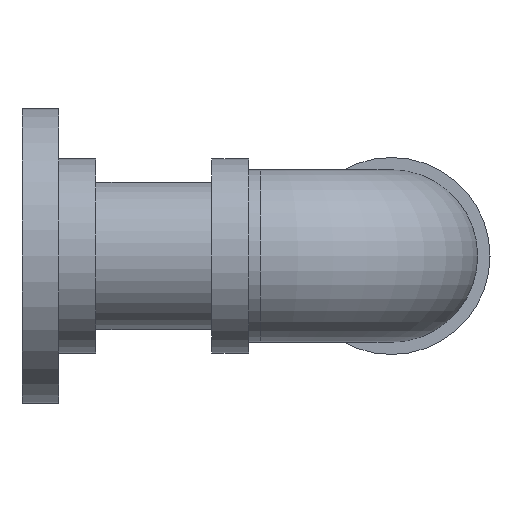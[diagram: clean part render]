
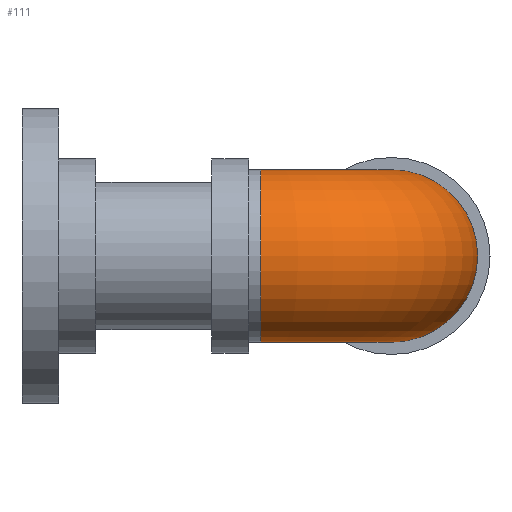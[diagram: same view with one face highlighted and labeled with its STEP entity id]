
A CAD part, left-side view. The second image highlights one B-rep face of the part: STEP entity #111.
In plain terms, the highlighted toroidal (fillet/blend) face has major radius 10.6 mm and minor radius 7 mm.
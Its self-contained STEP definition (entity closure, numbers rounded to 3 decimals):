
#111 = ADVANCED_FACE( '', ( #248, #249 ), #250, .T. );
#248 = FACE_OUTER_BOUND( '', #393, .T. );
#249 = FACE_OUTER_BOUND( '', #394, .T. );
#250 = TOROIDAL_SURFACE( '', #395, 10.6, 7. );
#393 = EDGE_LOOP( '', ( #584 ) );
#394 = EDGE_LOOP( '', ( #585 ) );
#395 = AXIS2_PLACEMENT_3D( '', #586, #587, #588 );
#584 = ORIENTED_EDGE( '', *, *, #690, .T. );
#585 = ORIENTED_EDGE( '', *, *, #696, .F. );
#586 = CARTESIAN_POINT( '', ( 10.6, -19.4, 0. ) );
#587 = DIRECTION( '', ( 0., 0., 1. ) );
#588 = DIRECTION( '', ( 1., 0., 0. ) );
#690 = EDGE_CURVE( '', #789, #789, #790, .T. );
#696 = EDGE_CURVE( '', #797, #797, #798, .T. );
#789 = VERTEX_POINT( '', #892 );
#790 = CIRCLE( '', #893, 7. );
#797 = VERTEX_POINT( '', #900 );
#798 = CIRCLE( '', #901, 7. );
#892 = CARTESIAN_POINT( '', ( -7., -19.4, 0. ) );
#893 = AXIS2_PLACEMENT_3D( '', #1002, #1003, #1004 );
#900 = CARTESIAN_POINT( '', ( 10.6, -37., 0. ) );
#901 = AXIS2_PLACEMENT_3D( '', #1008, #1009, #1010 );
#1002 = CARTESIAN_POINT( '', ( 0., -19.4, 0. ) );
#1003 = DIRECTION( '', ( 0., -1., 0. ) );
#1004 = DIRECTION( '', ( -1., 0., 0. ) );
#1008 = CARTESIAN_POINT( '', ( 10.6, -30., 0. ) );
#1009 = DIRECTION( '', ( 1., 0., 0. ) );
#1010 = DIRECTION( '', ( 0., -1., 0. ) );
